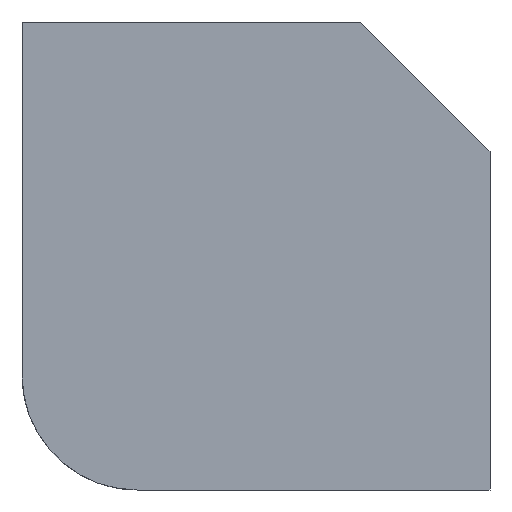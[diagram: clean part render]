
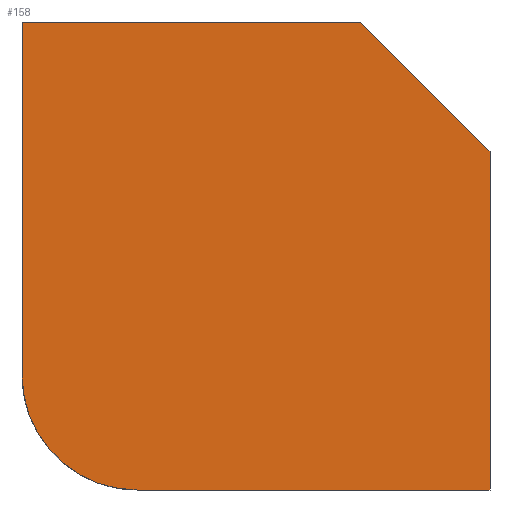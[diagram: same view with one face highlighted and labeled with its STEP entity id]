
A CAD part, front view. The second image highlights one B-rep face of the part: STEP entity #158.
In plain terms, the highlighted planar face has unit normal (0, -1, 0).
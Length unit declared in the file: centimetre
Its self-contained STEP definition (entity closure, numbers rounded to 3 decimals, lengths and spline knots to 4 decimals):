
#11 = CARTESIAN_POINT ( 'NONE',  ( 0., 0., 1000. ) ) ;
#19 = ORIENTED_EDGE ( 'NONE', *, *, #117, .F. ) ;
#24 = VERTEX_POINT ( 'NONE', #78 ) ;
#25 = ORIENTED_EDGE ( 'NONE', *, *, #83, .F. ) ;
#29 = CARTESIAN_POINT ( 'NONE',  ( 1000., 0., 1000. ) ) ;
#39 = DIRECTION ( 'NONE',  ( 0., 0., 1. ) ) ;
#40 = CARTESIAN_POINT ( 'NONE',  ( 1000., 0., 722.5986 ) ) ;
#41 = DIRECTION ( 'NONE',  ( 0., 1., 0. ) ) ;
#45 = CARTESIAN_POINT ( 'NONE',  ( 722.5986, 0., 1000. ) ) ;
#48 = ORIENTED_EDGE ( 'NONE', *, *, #333, .T. ) ;
#49 = AXIS2_PLACEMENT_3D ( 'NONE', #302, #65, #39 ) ;
#53 = EDGE_LOOP ( 'NONE', ( #19, #332, #25, #48, #201, #338 ) ) ;
#58 = DIRECTION ( 'NONE',  ( 1., 0., 0. ) ) ;
#64 = CARTESIAN_POINT ( 'NONE',  ( 0., 0., 1000. ) ) ;
#65 = DIRECTION ( 'NONE',  ( 0., -1., 0. ) ) ;
#78 = CARTESIAN_POINT ( 'NONE',  ( 246.0639, 0., 0. ) ) ;
#83 = EDGE_CURVE ( 'NONE', #307, #144, #164, .T. ) ;
#84 = CARTESIAN_POINT ( 'NONE',  ( 0., 0., 0. ) ) ;
#86 = DIRECTION ( 'NONE',  ( 1., 0., 0. ) ) ;
#98 = CARTESIAN_POINT ( 'NONE',  ( 0., 0., 1000. ) ) ;
#100 = CARTESIAN_POINT ( 'NONE',  ( 1000., 0., 0. ) ) ;
#105 = DIRECTION ( 'NONE',  ( 0., 0., -1. ) ) ;
#117 = EDGE_CURVE ( 'NONE', #212, #257, #272, .T. ) ;
#120 = DIRECTION ( 'NONE',  ( -0.707, 0., 0.707 ) ) ;
#130 = VECTOR ( 'NONE', #105, 100. ) ;
#132 = EDGE_CURVE ( 'NONE', #24, #257, #321, .T. ) ;
#140 = FACE_OUTER_BOUND ( 'NONE', #53, .T. ) ;
#144 = VERTEX_POINT ( 'NONE', #194 ) ;
#158 = ADVANCED_FACE ( 'NONE', ( #140 ), #222, .F. ) ;
#164 = LINE ( 'NONE', #11, #191 ) ;
#168 = DIRECTION ( 'NONE',  ( 0., 0., 1. ) ) ;
#173 = CARTESIAN_POINT ( 'NONE',  ( 0., 0., 246.0639 ) ) ;
#178 = EDGE_CURVE ( 'NONE', #308, #24, #220, .T. ) ;
#179 = LINE ( 'NONE', #286, #216 ) ;
#191 = VECTOR ( 'NONE', #58, 100. ) ;
#193 = AXIS2_PLACEMENT_3D ( 'NONE', #64, #41, #168 ) ;
#194 = CARTESIAN_POINT ( 'NONE',  ( 722.5986, 0., 1000. ) ) ;
#201 = ORIENTED_EDGE ( 'NONE', *, *, #178, .T. ) ;
#202 = VECTOR ( 'NONE', #86, 100. ) ;
#207 = LINE ( 'NONE', #45, #230 ) ;
#212 = VERTEX_POINT ( 'NONE', #40 ) ;
#216 = VECTOR ( 'NONE', #281, 100. ) ;
#220 = CIRCLE ( 'NONE', #49, 246.0639 ) ;
#222 = PLANE ( 'NONE',  #193 ) ;
#230 = VECTOR ( 'NONE', #120, 100. ) ;
#257 = VERTEX_POINT ( 'NONE', #100 ) ;
#272 = LINE ( 'NONE', #29, #130 ) ;
#277 = EDGE_CURVE ( 'NONE', #212, #144, #207, .T. ) ;
#281 = DIRECTION ( 'NONE',  ( 0., 0., -1. ) ) ;
#286 = CARTESIAN_POINT ( 'NONE',  ( 0., 0., 1000. ) ) ;
#302 = CARTESIAN_POINT ( 'NONE',  ( 246.0639, 0., 246.0639 ) ) ;
#307 = VERTEX_POINT ( 'NONE', #98 ) ;
#308 = VERTEX_POINT ( 'NONE', #173 ) ;
#321 = LINE ( 'NONE', #84, #202 ) ;
#332 = ORIENTED_EDGE ( 'NONE', *, *, #277, .T. ) ;
#333 = EDGE_CURVE ( 'NONE', #307, #308, #179, .T. ) ;
#338 = ORIENTED_EDGE ( 'NONE', *, *, #132, .T. ) ;
